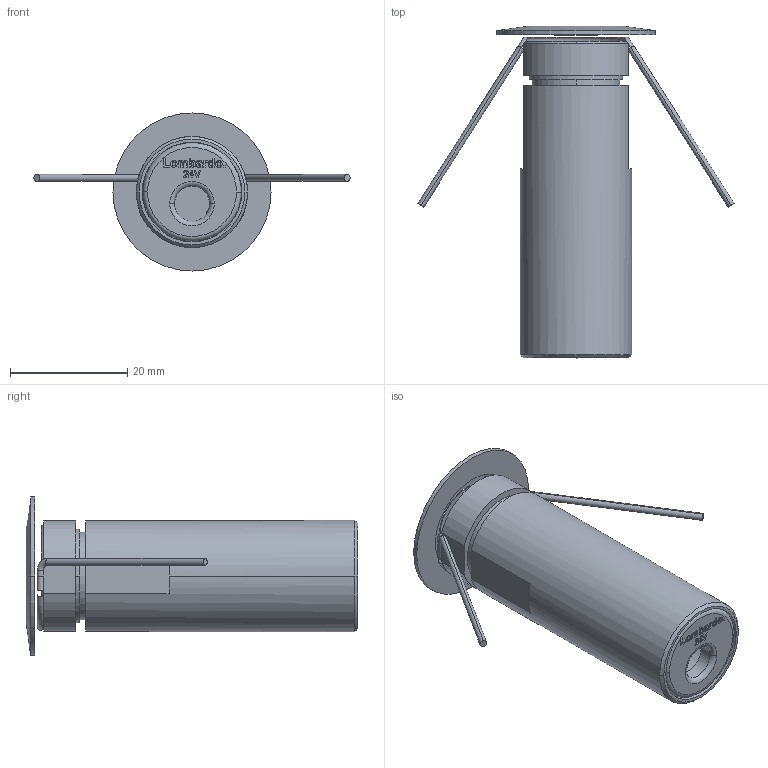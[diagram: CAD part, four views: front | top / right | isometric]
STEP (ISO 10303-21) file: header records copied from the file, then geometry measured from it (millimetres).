
FILE_DESCRIPTION((''),'2;1');
FILE_NAME('CNC25_V2_SW0001','2025-06-24T08:56:05',('Piccioli'),(''),'CREO PARAMETRIC BY PTC INC, 2025010','CREO PARAMETRIC BY PTC INC, 2025010','');
FILE_SCHEMA(('CONFIG_CONTROL_DESIGN'));
Length unit declared in the file: millimetre
Products named in the file (1): CNC25_V2_SW0001
Bounding box: 54 x 56.65 x 27 mm (x, y, z)
Surface area: 7032.1 mm2 (no closed solid volume)
Topology: 0 solids, 33 shells, 80 faces, 578 edges, 532 vertices
Faces by surface type: plane 39, cylinder 26, torus 9, cone 6
Entity records: 6301 total; most frequent: CARTESIAN_POINT 2553, ORIENTED_EDGE 668, EDGE_CURVE 578, DIRECTION 576, VERTEX_POINT 532, B_SPLINE_CURVE_WITH_KNOTS 276, AXIS2_PLACEMENT_3D 194, VECTOR 188
